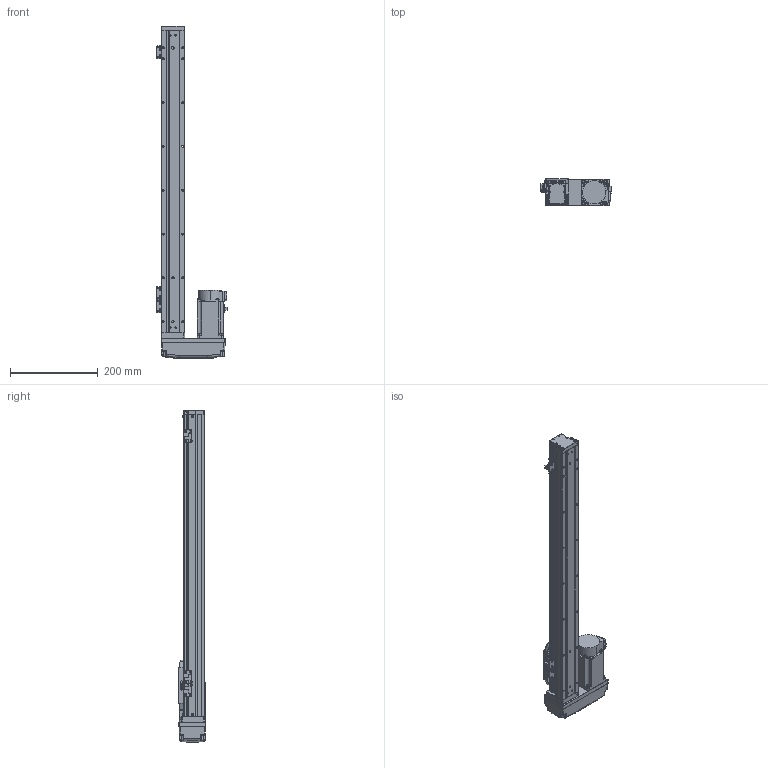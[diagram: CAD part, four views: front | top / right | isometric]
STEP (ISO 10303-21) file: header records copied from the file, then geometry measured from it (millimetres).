
FILE_DESCRIPTION (( 'STEP AP203' ), '1' );
FILE_NAME ('GTH5-550-BR-M20-C4.step', '2022-12-16T03:32:48', ( '微软用户' ), ( '微软中国' ), 'SwSTEP 2.0', 'SolidWorks 2020', '' );
FILE_SCHEMA (( 'CONFIG_CONTROL_DESIGN' ));
Length unit declared in the file: millimetre
Products named in the file (19): GBT 70.1-M3℅6; GTH80-026; GTH50-001_550; GBT96.1-2002 3×0.8; hg-kn43j_-s100_; GBT 70.1-M4×16; GTH50-024; GTH5-550-BR-M20-C4; GBT 70.1-M2.5×6; GTH50-006; GTH50-003; GTH50-028; GTH50-004; GTH50-013; GTH50-022-1; GBT 70.3-M3℅6; GTH50-023; CTHA60-015-4_CTHA60-015-5; BTH-M3X5X6
Assembly tree (57 placements, depth 2):
  GTH5-550-BR-M20-C4
    GTH50-006
    GTH50-004
    GBT 70.3-M3℅6  x4
    BTH-M3X5X6  x8
    GTH50-001_550
    GBT 70.1-M4×16  x8
    GTH50-003
    GTH50-013
    GTH50-023  x3
    GBT 70.1-M3℅6  x12
    GBT96.1-2002 3×0.8  x6
    GTH50-024  x3
    GBT 70.1-M2.5×6  x2
    GTH50-028  x2
    GTH50-022-1
    CTHA60-015-4_CTHA60-015-5
    GTH80-026
    hg-kn43j_-s100_
Bounding box: 160.6 x 62.6 x 758 mm (x, y, z)
Volume: 2225307.4 mm3; surface area: 323860.6 mm2
Topology: 59 solids, 59 shells, 2195 faces, 5089 edges, 3134 vertices
Faces by surface type: plane 1139, cylinder 636, cone 212, torus 166, bspline 34, sphere 8
Entity records: 41343 total; most frequent: CARTESIAN_POINT 8138, DIRECTION 6484, ORIENTED_EDGE 6092, EDGE_CURVE 3046, AXIS2_PLACEMENT_3D 2302, VERTEX_POINT 1936, VECTOR 1880, LINE 1880
